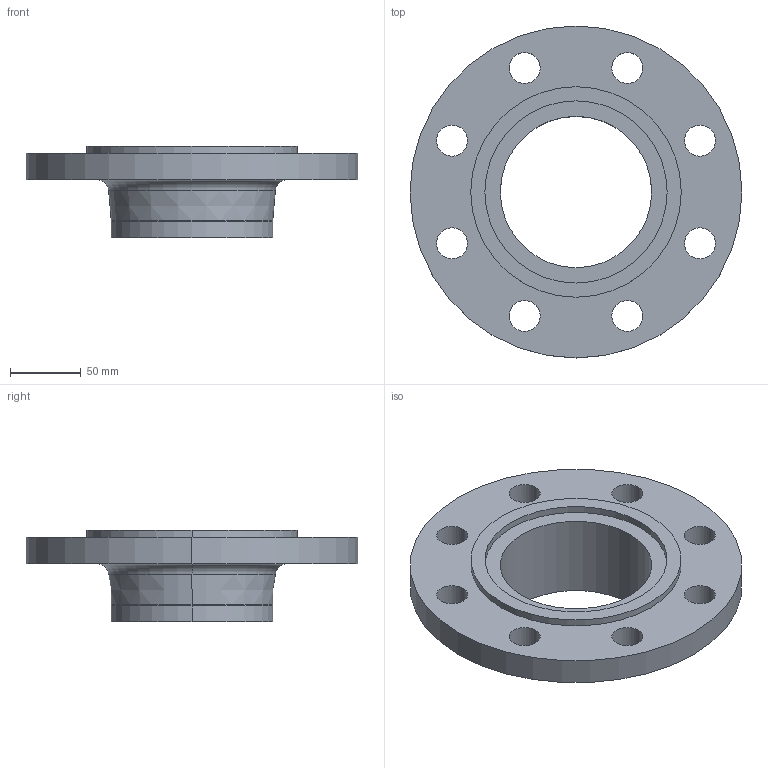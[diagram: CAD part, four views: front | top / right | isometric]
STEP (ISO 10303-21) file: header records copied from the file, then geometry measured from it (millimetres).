
FILE_DESCRIPTION (( 'STEP AP214' ), '1' );
FILE_NAME ('PN40 DN100 Type 11 - Type C Face.STEP', '2019-01-02T00:23:47', ( '' ), ( '' ), 'SwSTEP 2.0', 'SolidWorks 2019', '' );
FILE_SCHEMA (( 'AUTOMOTIVE_DESIGN' ));
Length unit declared in the file: millimetre
Products named in the file (1): PN40 DN100 Type 11 - Type C Face
Bounding box: 235 x 235 x 65 mm (x, y, z)
Volume: 686011.1 mm3; surface area: 124781.6 mm2
Topology: 1 solids, 1 shells, 37 faces, 90 edges, 58 vertices
Faces by surface type: cylinder 26, plane 5, torus 4, cone 2
Entity records: 1188 total; most frequent: DIRECTION 228, CARTESIAN_POINT 186, ORIENTED_EDGE 180, AXIS2_PLACEMENT_3D 100, EDGE_CURVE 90, CIRCLE 62, EDGE_LOOP 58, VERTEX_POINT 58
